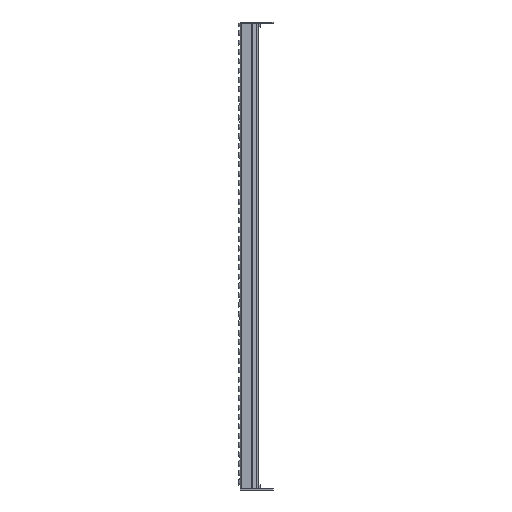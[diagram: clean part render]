
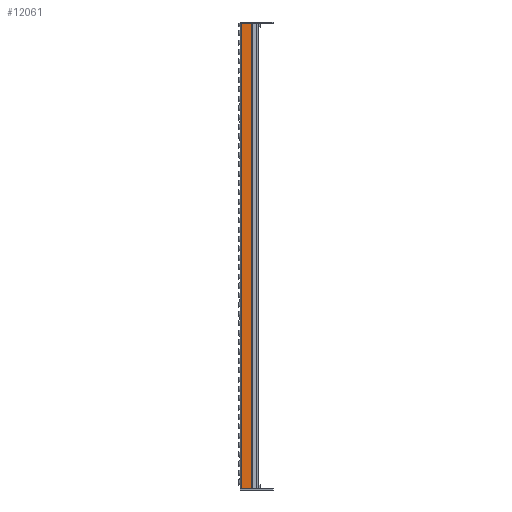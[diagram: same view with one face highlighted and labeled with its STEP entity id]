
A CAD part, left-side view. The second image highlights one B-rep face of the part: STEP entity #12061.
In plain terms, the highlighted planar face has unit normal (-1, 0, 0).
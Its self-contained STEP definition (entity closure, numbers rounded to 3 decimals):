
#2080=FACE_OUTER_BOUND('',#3115,.T.);
#3115=EDGE_LOOP('',(#10600,#10601,#10602,#10603));
#4014=LINE('',#23468,#5006);
#4025=LINE('',#23498,#5017);
#4035=LINE('',#23521,#5027);
#4042=LINE('',#23536,#5034);
#5006=VECTOR('',#16492,10.);
#5017=VECTOR('',#16517,10.);
#5027=VECTOR('',#16539,10.);
#5034=VECTOR('',#16558,10.);
#6131=VERTEX_POINT('',#23465);
#6132=VERTEX_POINT('',#23467);
#6144=VERTEX_POINT('',#23497);
#6151=VERTEX_POINT('',#23520);
#7624=EDGE_CURVE('',#6132,#6131,#4014,.T.);
#7639=EDGE_CURVE('',#6131,#6144,#4025,.T.);
#7651=EDGE_CURVE('',#6151,#6132,#4035,.T.);
#7659=EDGE_CURVE('',#6144,#6151,#4042,.T.);
#10600=ORIENTED_EDGE('',*,*,#7639,.T.);
#10601=ORIENTED_EDGE('',*,*,#7659,.T.);
#10602=ORIENTED_EDGE('',*,*,#7651,.T.);
#10603=ORIENTED_EDGE('',*,*,#7624,.T.);
#11276=PLANE('',#13392);
#12061=ADVANCED_FACE('',(#2080),#11276,.T.);
#13392=AXIS2_PLACEMENT_3D('',#23537,#16559,#16560);
#16492=DIRECTION('',(0.,1.,0.));
#16517=DIRECTION('',(0.,0.,-1.));
#16539=DIRECTION('',(0.,0.,1.));
#16558=DIRECTION('',(0.,-1.,0.));
#16559=DIRECTION('center_axis',(-1.,0.,0.));
#16560=DIRECTION('ref_axis',(0.,0.,1.));
#23465=CARTESIAN_POINT('',(0.,-3.25,994.));
#23467=CARTESIAN_POINT('',(0.,-24.427,994.));
#23468=CARTESIAN_POINT('',(0.,0.,994.));
#23497=CARTESIAN_POINT('',(0.,-3.25,0.));
#23498=CARTESIAN_POINT('',(0.,-3.25,0.));
#23520=CARTESIAN_POINT('',(0.,-24.427,0.));
#23521=CARTESIAN_POINT('',(0.,-24.427,248.5));
#23536=CARTESIAN_POINT('',(0.,0.,0.));
#23537=CARTESIAN_POINT('Origin',(0.,-25.,0.));
